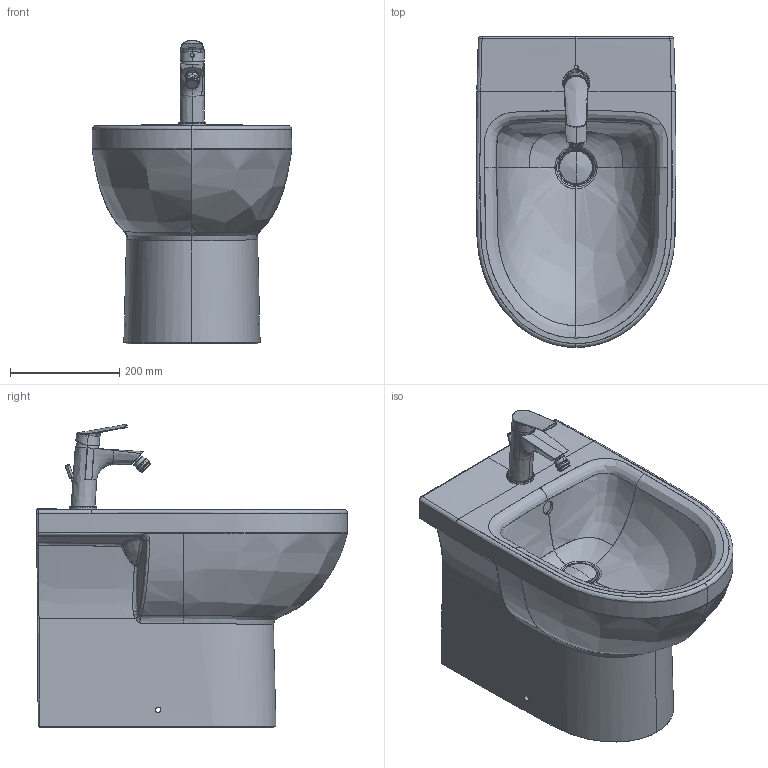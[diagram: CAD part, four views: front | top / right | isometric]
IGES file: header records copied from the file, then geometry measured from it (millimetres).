
Global section: file name: d:\users\matthias.isele\Desktop\Planungsdaten_erstellen\Duravit_No_1\229610\3D\229610.igs; native system: Rhinoceros ( Sep 13 2016 ); preprocessor: Trout Lake IGES 012 Sep 13 2016; date: 210920.115058; units: millimetre
Bounding box: 366.63 x 569.99 x 556.46 mm (x, y, z)
Surface area: 1343796.9 mm2 (no closed solid volume)
Topology: 0 solids, 0 shells, 621 faces, 5068 edges, 5048 vertices
Faces by surface type: bspline 621
